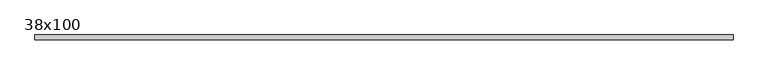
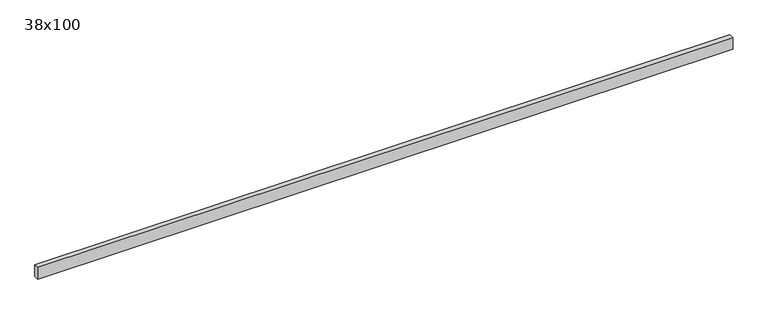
"""IFC4 building model written with IfcOpenShell, lengths in millimetres: beam geometry, Poutre - Bois de construction de dimensions courantes : 38x100."""

import ifcopenshell
import ifcopenshell.guid

model = None  # the IFC model being written
_history = None  # IfcOwnerHistory: only IFC2X3 demands one
_inside = {}  # id of a spatial element -> (the spatial element, [elements in it])
_under = {}  # id of a project, library or spatial element -> (it, [spatial elements below it])
_declared = {}  # id of a project -> (the project, [libraries it declares])
_typed = {}  # id of a type object -> (the type object, [elements of that type])
_made_of = {}  # id of a material, layer set ... -> (it, [elements and type objects made of it])


def new_model(schema):
    """Start an empty IFC model of exactly this schema.

    Asked for "IFC4X3", IfcOpenShell would pick the latest addendum, in which some entities
    have other attributes; the version numbers below select the first issue.
    IFC2X3 requires an IfcOwnerHistory on every rooted entity: one is made here for all.
    """
    global model, _history
    if schema == "IFC4X3":
        model = ifcopenshell.file(schema_version=(4, 3, 0, 0))
    else:
        model = ifcopenshell.file(schema=schema)
    _inside.clear()
    _under.clear()
    _declared.clear()
    _typed.clear()
    _made_of.clear()
    _history = None
    if model.schema == "IFC2X3":
        org = make("IfcOrganization", Name="unknown")
        user = make(
            "IfcPersonAndOrganization",
            ThePerson=make("IfcPerson", FamilyName="unknown"),
            TheOrganization=org,
        )
        app = make(
            "IfcApplication",
            ApplicationDeveloper=org,
            Version="unknown",
            ApplicationFullName="unknown",
            ApplicationIdentifier="unknown",
        )
        _history = make(
            "IfcOwnerHistory",
            OwningUser=user,
            OwningApplication=app,
            ChangeAction="ADDED",
            CreationDate=0,
        )
    return model


def make(cls, **values):
    """One entity of the class cls with the attributes given. An attribute that is None is left unset."""
    return model.create_entity(
        cls, **{name: value for name, value in values.items() if value is not None}
    )


def rooted(cls, **values):
    """An entity with a GlobalId (a new one), such as an element, a storey or a relation."""
    return make(cls, GlobalId=ifcopenshell.guid.new(), OwnerHistory=_history, **values)


def si_unit(unit_type, name, prefix=None):
    """IfcSIUnit, for example si_unit("LENGTHUNIT", "METRE", prefix="MILLI")."""
    return make("IfcSIUnit", UnitType=unit_type, Prefix=prefix, Name=name)


def assignment(units):
    """IfcUnitAssignment: the units of a project."""
    return None if units is None else make("IfcUnitAssignment", Units=units)


def point(xyz):
    """IfcCartesianPoint."""
    return None if xyz is None else make("IfcCartesianPoint", Coordinates=xyz)


def direction(xyz):
    """IfcDirection."""
    return None if xyz is None else make("IfcDirection", DirectionRatios=xyz)


def frame(location, z_axis=None, x_axis=None):
    """IfcAxis2Placement3D, a coordinate frame: its origin and axes. An axis left out is left unset."""
    return make(
        "IfcAxis2Placement3D",
        Location=point(location),
        Axis=direction(z_axis),
        RefDirection=direction(x_axis),
    )


def origin():
    """The frame at (0, 0, 0) with its axes left unset."""
    return frame((0.0, 0.0, 0.0))


def place(relative_to, where):
    """IfcLocalPlacement: puts the frame where relative to a parent placement (None: the world)."""
    return make(
        "IfcLocalPlacement", PlacementRelTo=relative_to, RelativePlacement=where
    )


def context(
    kind, dimensions, precision=None, world=None, true_north=None, identifier=None
):
    """IfcGeometricRepresentationContext, for example the 3D "Model" context."""
    return make(
        "IfcGeometricRepresentationContext",
        ContextIdentifier=identifier,
        ContextType=kind,
        CoordinateSpaceDimension=dimensions,
        Precision=precision,
        WorldCoordinateSystem=world,
        TrueNorth=true_north,
    )


def project(units=None, contexts=None):
    """IfcProject with its units and contexts."""
    return rooted(
        "IfcProject",
        Name="project",
        RepresentationContexts=contexts,
        UnitsInContext=assignment(units),
    )


def spatial(cls, under=None, at=None, **own):
    """A site, building, storey or space (cls), placed at a placement, below another one or the project."""
    s = rooted(cls, ObjectPlacement=at, **own)
    if under is not None:
        _under.setdefault(under.id(), (under, []))[1].append(s)
    return s


def polyline(points):
    """IfcPolyline through the points."""
    return make("IfcPolyline", Points=[point(p) for p in points])


def outline(outer, holes=None, kind="AREA"):
    """IfcArbitraryClosedProfileDef: a profile drawn as a closed curve; with holes, ...WithVoids."""
    if holes is None:
        return make("IfcArbitraryClosedProfileDef", ProfileType=kind, OuterCurve=outer)
    return make(
        "IfcArbitraryProfileDefWithVoids",
        ProfileType=kind,
        OuterCurve=outer,
        InnerCurves=holes,
    )


def extrude(swept, where, along, depth):
    """IfcExtrudedAreaSolid: the profile swept, set in the frame where, extruded along a direction by depth."""
    return make(
        "IfcExtrudedAreaSolid",
        SweptArea=swept,
        Position=where,
        ExtrudedDirection=direction(along),
        Depth=depth,
    )


def shape(context_of_items, identifier, shape_type, items):
    """IfcShapeRepresentation: the items that make up one representation, for example the "Body"."""
    return make(
        "IfcShapeRepresentation",
        ContextOfItems=context_of_items,
        RepresentationIdentifier=identifier,
        RepresentationType=shape_type,
        Items=items,
    )


def source(mapping_origin, context_of_items, identifier, shape_type, items):
    """IfcRepresentationMap: a shape defined once, which mapped items show again and again."""
    return make(
        "IfcRepresentationMap",
        MappingOrigin=mapping_origin,
        MappedRepresentation=shape(context_of_items, identifier, shape_type, items),
    )


def transform(
    local_origin,
    x_axis=None,
    y_axis=None,
    z_axis=None,
    scale=None,
    scale2=None,
    scale3=None,
    uniform=True,
):
    """IfcCartesianTransformationOperator3D, or its non-uniform kind. x_axis, y_axis, z_axis: its Axis1, 2, 3."""
    if uniform:
        return make(
            "IfcCartesianTransformationOperator3D",
            Axis1=direction(x_axis),
            Axis2=direction(y_axis),
            LocalOrigin=point(local_origin),
            Scale=scale,
            Axis3=direction(z_axis),
        )
    return make(
        "IfcCartesianTransformationOperator3DnonUniform",
        Axis1=direction(x_axis),
        Axis2=direction(y_axis),
        LocalOrigin=point(local_origin),
        Scale=scale,
        Axis3=direction(z_axis),
        Scale2=scale2,
        Scale3=scale3,
    )


def mapped(mapping_source, mapping_target):
    """IfcMappedItem: shows the shape of a source again, moved by a transform."""
    return make(
        "IfcMappedItem", MappingSource=mapping_source, MappingTarget=mapping_target
    )


def made_of(thing, what):
    """Note that an element or type object is made of a material, layer set ...; save() writes the relation."""
    if what is not None:
        _made_of.setdefault(what.id(), (what, []))[1].append(thing)
    return thing


def element(
    cls,
    number,
    at=None,
    inside=None,
    cuts=None,
    type_object=None,
    material=None,
    context=None,
    identifier="Body",
    shape_type=None,
    held_by="IfcProductDefinitionShape",
    body=None,
    shapes=None,
    **own,
):
    """One element of the class cls, such as IfcWall. Its Tag is "e" and its number.

    at: its placement. inside: the storey or other place that contains it. cuts: it is an
    opening in that element (IfcRelVoidsElement). A single representation is given by context,
    identifier, shape_type and body (its items); several are given by shapes. held_by: the class
    of the entity that holds the representations. save() writes the other relations.
    """
    e = rooted(cls, Tag="e%d" % number, ObjectPlacement=at, **own)
    if body is not None:
        shapes = [shape(context, identifier, shape_type, body)]
    if shapes is not None:
        e.Representation = make(held_by, Representations=shapes)
    if inside is not None:
        _inside.setdefault(inside.id(), (inside, []))[1].append(e)
    if cuts is not None:
        rooted(
            "IfcRelVoidsElement", RelatingBuildingElement=cuts, RelatedOpeningElement=e
        )
    if type_object is not None:
        _typed.setdefault(type_object.id(), (type_object, []))[1].append(e)
    return made_of(e, material)


def aggregate(whole, parts):
    """IfcRelAggregates: a whole, such as a stair, and the parts it consists of."""
    return rooted("IfcRelAggregates", RelatingObject=whole, RelatedObjects=parts)


def save(model, path):
    """Write the relations noted so far, then the file.

    IfcRelAggregates (storeys below a building ...), IfcRelContainedInSpatialStructure (elements
    in a storey), IfcRelDefinesByType, IfcRelAssociatesMaterial and IfcRelDeclares: one each for
    every whole, place, type object, material and project.
    """
    for whole, parts in _under.values():
        aggregate(whole, parts)
    for where, things in _inside.values():
        rooted(
            "IfcRelContainedInSpatialStructure",
            RelatedElements=things,
            RelatingStructure=where,
        )
    for kind, things in _typed.values():
        rooted("IfcRelDefinesByType", RelatedObjects=things, RelatingType=kind)
    for what, things in _made_of.values():
        rooted("IfcRelAssociatesMaterial", RelatedObjects=things, RelatingMaterial=what)
    for by, libraries in _declared.values():
        rooted("IfcRelDeclares", RelatingContext=by, RelatedDefinitions=libraries)
    model.write(path)


def beam_38x100_ff4f1b65(model_context):
    return source(origin(), model_context, "Body", "SweptSolid", [
        extrude(outline(polyline([(2754.5, 19.05), (2754.5, -19.05), (-2914.5, -19.05), (-2914.5, 19.05), (2754.5, 19.05)])), frame((0.0, 0.0, -50.0), z_axis=(0.0, 0.0, 1.0), x_axis=(1.0, 0.0, 0.0)), (0.0, 0.0, 1.0), 100.0),
    ])


if __name__ == "__main__":
    model = new_model("IFC4")
    model_context = context("Model", 3, world=origin())
    ifc_project = project(units=[si_unit("LENGTHUNIT", "METRE", prefix="MILLI")], contexts=[model_context])
    site = spatial("IfcSite", under=ifc_project)
    building = spatial("IfcBuilding", under=site)
    placement = place(None, origin())
    beam_38x100_shape = beam_38x100_ff4f1b65(model_context)
    element("IfcBeam", 1, ObjectType="Poutre - Bois de construction de dimensions courantes : 38x100", at=placement, inside=building, context=model_context, shape_type="MappedRepresentation", body=[
        mapped(beam_38x100_shape, transform((0.0, 0.0, 0.0), x_axis=(1.0, 0.0, 0.0), y_axis=(0.0, 1.0, 0.0), z_axis=(0.0, 0.0, 1.0))),
    ])
    save(model, "model.ifc")
